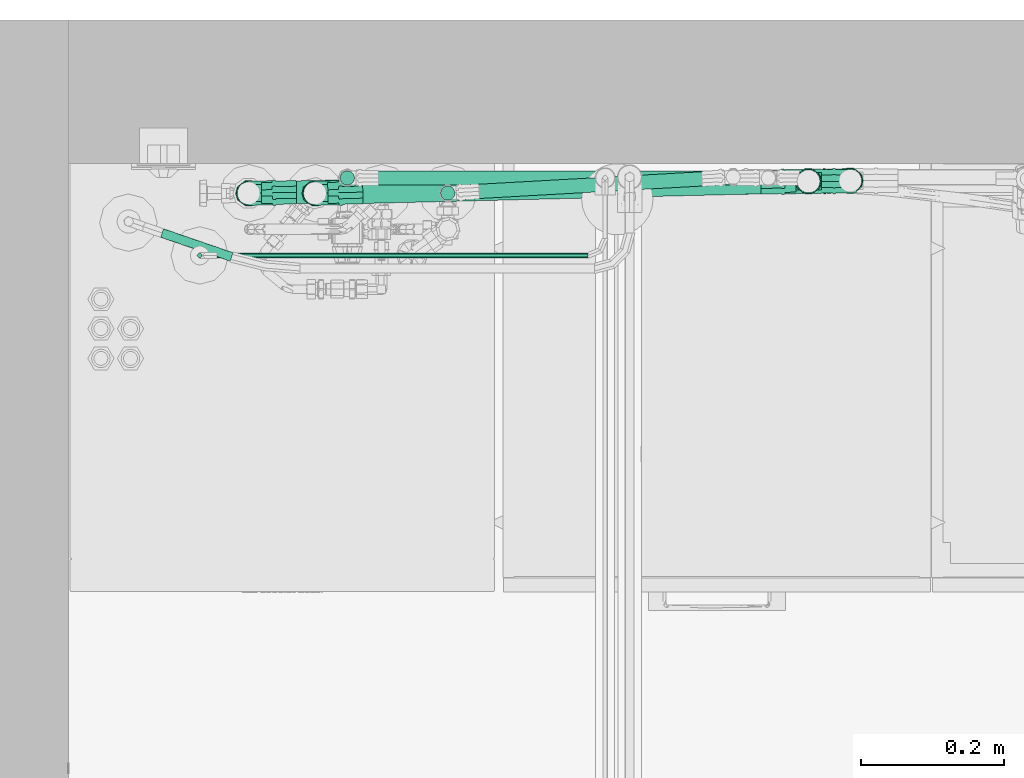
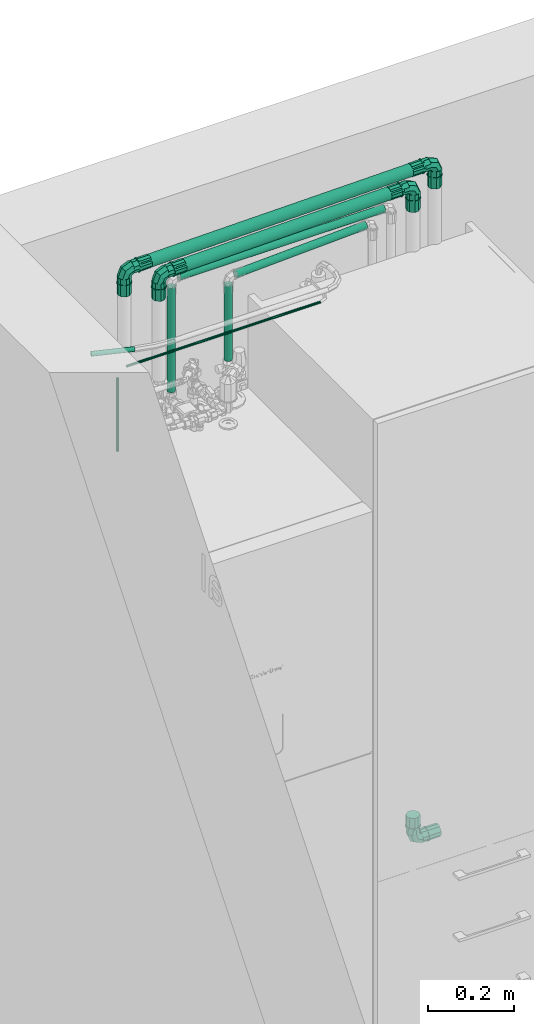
# One storey, part 19 of 30: 9 flow segments, 5 flow fittings.
"""IFC2X3 building model written with IfcOpenShell, lengths in metres."""

from ifc_helpers import new_model, entity, si_unit, converted_unit, derived_unit, direction, frame, frame_2d, origin, origin_2d_with_axis, place, context, subcontext, project, spatial, circle, extrude, faceted_brep, source, transform, mapped, material, material_list, type_object, type_shapes, element, save


model = new_model("IFC2X3")

# Units and contexts
model_context = context("Model", 3, precision=1e-05, world=origin(), true_north=direction((6.123031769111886e-17, 1.0)))
body_context = subcontext(model_context, "Body", "Model", "MODEL_VIEW")
ifc_project = project(units=[si_unit("LENGTHUNIT", "METRE"), si_unit("AREAUNIT", "SQUARE_METRE"), si_unit("VOLUMEUNIT", "CUBIC_METRE"), converted_unit("PLANEANGLEUNIT", "DEGREE", entity("IfcPlaneAngleMeasure", 0.017453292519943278), si_unit("PLANEANGLEUNIT", "RADIAN"), dimensions=[0, 0, 0, 0, 0, 0, 0]), si_unit("MASSUNIT", "GRAM", prefix="KILO"), derived_unit("MASSDENSITYUNIT", [(si_unit("MASSUNIT", "GRAM", prefix="KILO"), 1), (si_unit("LENGTHUNIT", "METRE"), -3)]), derived_unit("IONCONCENTRATIONUNIT", [(si_unit("MASSUNIT", "GRAM", prefix="KILO"), 1), (si_unit("LENGTHUNIT", "METRE"), -3)]), derived_unit("MOMENTOFINERTIAUNIT", [(si_unit("LENGTHUNIT", "METRE"), 4)]), si_unit("TIMEUNIT", "SECOND"), si_unit("FREQUENCYUNIT", "HERTZ"), si_unit("THERMODYNAMICTEMPERATUREUNIT", "DEGREE_CELSIUS"), derived_unit("THERMALTRANSMITTANCEUNIT", [(si_unit("MASSUNIT", "GRAM", prefix="KILO"), 1), (si_unit("THERMODYNAMICTEMPERATUREUNIT", "KELVIN"), -1), (si_unit("TIMEUNIT", "SECOND"), -3)]), derived_unit("THERMALCONDUCTANCEUNIT", [(si_unit("MASSUNIT", "GRAM", prefix="KILO"), 1), (si_unit("THERMODYNAMICTEMPERATUREUNIT", "KELVIN"), -1), (si_unit("TIMEUNIT", "SECOND"), -3), (si_unit("LENGTHUNIT", "METRE"), 1)]), derived_unit("VOLUMETRICFLOWRATEUNIT", [(si_unit("LENGTHUNIT", "METRE", prefix="DECI"), 3), (si_unit("TIMEUNIT", "SECOND"), -1)]), derived_unit("MASSFLOWRATEUNIT", [(si_unit("MASSUNIT", "GRAM", prefix="KILO"), 1), (si_unit("TIMEUNIT", "SECOND"), -1)]), derived_unit("ROTATIONALFREQUENCYUNIT", [(si_unit("TIMEUNIT", "SECOND"), -1)]), si_unit("ELECTRICCURRENTUNIT", "AMPERE"), si_unit("ELECTRICVOLTAGEUNIT", "VOLT"), si_unit("POWERUNIT", "WATT"), si_unit("FORCEUNIT", "NEWTON", prefix="KILO"), si_unit("ILLUMINANCEUNIT", "LUX"), si_unit("LUMINOUSFLUXUNIT", "LUMEN"), si_unit("LUMINOUSINTENSITYUNIT", "CANDELA"), si_unit("ENERGYUNIT", "JOULE"), derived_unit("USERDEFINED", [(si_unit("MASSUNIT", "GRAM", prefix="KILO"), -1), (si_unit("LENGTHUNIT", "METRE"), -2), (si_unit("TIMEUNIT", "SECOND"), 3), (si_unit("LUMINOUSFLUXUNIT", "LUMEN"), 1)]), derived_unit("USERDEFINED", [(si_unit("MASSUNIT", "GRAM", prefix="KILO"), 1), (si_unit("TIMEUNIT", "SECOND"), -3), (si_unit("LENGTHUNIT", "METRE"), 3), (si_unit("ELECTRICCURRENTUNIT", "AMPERE"), -2)]), derived_unit("SOUNDPOWERUNIT", [(si_unit("MASSUNIT", "GRAM", prefix="KILO"), 1), (si_unit("TIMEUNIT", "SECOND"), -3), (si_unit("LENGTHUNIT", "METRE"), 2)]), derived_unit("SOUNDPRESSUREUNIT", [(si_unit("MASSUNIT", "GRAM", prefix="KILO"), 1), (si_unit("LENGTHUNIT", "METRE"), -1), (si_unit("TIMEUNIT", "SECOND"), -2)]), derived_unit("LINEARVELOCITYUNIT", [(si_unit("LENGTHUNIT", "METRE"), 1), (si_unit("TIMEUNIT", "SECOND"), -1)]), si_unit("PRESSUREUNIT", "PASCAL"), derived_unit("USERDEFINED", [(si_unit("MASSUNIT", "GRAM", prefix="KILO"), 1), (si_unit("LENGTHUNIT", "METRE"), -2), (si_unit("TIMEUNIT", "SECOND"), -2)]), derived_unit("LINEARFORCEUNIT", [(si_unit("MASSUNIT", "GRAM", prefix="KILO"), 1), (si_unit("TIMEUNIT", "SECOND"), -2)]), derived_unit("PLANARFORCEUNIT", [(si_unit("MASSUNIT", "GRAM", prefix="KILO"), 1), (si_unit("LENGTHUNIT", "METRE"), -1), (si_unit("TIMEUNIT", "SECOND"), -2)]), derived_unit("SPECIFICHEATCAPACITYUNIT", [(si_unit("THERMODYNAMICTEMPERATUREUNIT", "KELVIN"), -1), (si_unit("LENGTHUNIT", "METRE"), 2), (si_unit("TIMEUNIT", "SECOND"), -2)]), derived_unit("HEATFLUXDENSITYUNIT", [(si_unit("MASSUNIT", "GRAM", prefix="KILO"), 1), (si_unit("TIMEUNIT", "SECOND"), -3)]), derived_unit("HEATINGVALUEUNIT", [(si_unit("LENGTHUNIT", "METRE"), 2), (si_unit("TIMEUNIT", "SECOND"), -2)]), derived_unit("VAPORPERMEABILITYUNIT", [(si_unit("LENGTHUNIT", "METRE"), -1), (si_unit("TIMEUNIT", "SECOND"), 1)]), derived_unit("DYNAMICVISCOSITYUNIT", [(si_unit("MASSUNIT", "GRAM", prefix="KILO"), 1), (si_unit("TIMEUNIT", "SECOND"), -1), (si_unit("LENGTHUNIT", "METRE"), -1)]), derived_unit("THERMALEXPANSIONCOEFFICIENTUNIT", [(si_unit("THERMODYNAMICTEMPERATUREUNIT", "KELVIN"), -1)]), derived_unit("MODULUSOFELASTICITYUNIT", [(si_unit("MASSUNIT", "GRAM", prefix="KILO"), 1), (si_unit("LENGTHUNIT", "METRE"), -1), (si_unit("TIMEUNIT", "SECOND"), -2)]), derived_unit("ISOTHERMALMOISTURECAPACITYUNIT", [(si_unit("MASSUNIT", "GRAM", prefix="KILO"), -1), (si_unit("LENGTHUNIT", "METRE"), 3)]), derived_unit("MOISTUREDIFFUSIVITYUNIT", [(si_unit("TIMEUNIT", "SECOND"), -1), (si_unit("LENGTHUNIT", "METRE"), 2)]), derived_unit("MASSPERLENGTHUNIT", [(si_unit("MASSUNIT", "GRAM", prefix="KILO"), 1), (si_unit("LENGTHUNIT", "METRE"), -1)]), derived_unit("THERMALRESISTANCEUNIT", [(si_unit("MASSUNIT", "GRAM", prefix="KILO"), -1), (si_unit("TIMEUNIT", "SECOND"), 3), (si_unit("THERMODYNAMICTEMPERATUREUNIT", "KELVIN"), 1)]), derived_unit("ACCELERATIONUNIT", [(si_unit("LENGTHUNIT", "METRE"), 1), (si_unit("TIMEUNIT", "SECOND"), -2)]), derived_unit("ANGULARVELOCITYUNIT", [(si_unit("TIMEUNIT", "SECOND"), -1), (si_unit("PLANEANGLEUNIT", "RADIAN"), 1)]), derived_unit("LINEARSTIFFNESSUNIT", [(si_unit("MASSUNIT", "GRAM", prefix="KILO"), 1), (si_unit("TIMEUNIT", "SECOND"), -2)]), derived_unit("WARPINGCONSTANTUNIT", [(si_unit("LENGTHUNIT", "METRE"), 6)]), derived_unit("LINEARMOMENTUNIT", [(si_unit("MASSUNIT", "GRAM", prefix="KILO"), 1), (si_unit("LENGTHUNIT", "METRE"), 1), (si_unit("TIMEUNIT", "SECOND"), -2)]), derived_unit("TORQUEUNIT", [(si_unit("MASSUNIT", "GRAM", prefix="KILO"), 1), (si_unit("LENGTHUNIT", "METRE"), 2), (si_unit("TIMEUNIT", "SECOND"), -2)])], contexts=[model_context])

# Site, building, storey
site_placement = place(None, origin())
site = spatial("IfcSite", under=ifc_project, at=site_placement, Name="Default", CompositionType="ELEMENT")
building_placement = place(site_placement, origin())
building = spatial("IfcBuilding", under=site, at=building_placement, CompositionType="ELEMENT")
storey_placement = place(building_placement, origin())
storey = spatial("IfcBuildingStorey", under=building, at=storey_placement, Name="Niveau 0", CompositionType="ELEMENT", Elevation=-1.949160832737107e-14)

# Flow segments
pipe_segment_type_1 = type_object("IfcPipeSegmentType", Name="Canalisation:Cuivre Frigo", PredefinedType="NOTDEFINED")
flow_segment_1_placement = place(storey_placement, origin())
element("IfcFlowSegment", 1, at=flow_segment_1_placement, inside=storey, type_object=pipe_segment_type_1, Name="Canalisation:Cuivre Frigo", ObjectType="Canalisation:Cuivre Frigo", context=body_context, shape_type="SweptSolid", body=[
    extrude(circle(Radius=0.0032, at=origin_2d_with_axis()), frame((-20.431289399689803, 2.7395264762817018, 1.9300000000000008)), (0.0, 0.0, 1.0), 0.20798855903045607),
])
flow_segment_2_placement = place(storey_placement, origin())
element("IfcFlowSegment", 2, at=flow_segment_2_placement, inside=storey, type_object=pipe_segment_type_1, Name="Canalisation:Cuivre Frigo", ObjectType="Canalisation:Cuivre Frigo", context=body_context, shape_type="SweptSolid", body=[
    extrude(circle(Radius=0.0032, at=frame_2d((0.0, 2.707167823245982e-16), x_axis=(1.0, 0.0))), frame((-20.407189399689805, 2.7395264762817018, 2.1620885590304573), z_axis=(1.0, 0.0, 0.0), x_axis=(0.0, -1.0, 0.0)), (0.0, 0.0, 1.0), 0.5199250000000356),
])
flow_segment_3_placement = place(storey_placement, origin())
element("IfcFlowSegment", 3, at=flow_segment_3_placement, inside=storey, type_object=pipe_segment_type_1, Name="Canalisation:Cuivre Frigo", ObjectType="Canalisation:Cuivre Frigo", context=body_context, shape_type="SweptSolid", body=[
    extrude(circle(Radius=0.00635, at=frame_2d((-5.119354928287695e-16, 0.0), x_axis=(1.0, 0.0))), frame((-20.48414539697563, 2.7710151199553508, 2.205137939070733), z_axis=(0.9455185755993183, -0.32556815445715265, 0.0), x_axis=(-0.32556815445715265, -0.9455185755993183, 0.0)), (0.0, 0.0, 1.0), 0.10301593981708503),
])
pipe_segment_type_2 = type_object("IfcPipeSegmentType", Name="Canalisation:COMAP MULTISKIN - SKINPRESS PPSU", PredefinedType="NOTDEFINED")
flow_segment_4_placement = place(storey_placement, origin())
element("IfcFlowSegment", 4, at=flow_segment_4_placement, inside=storey, type_object=pipe_segment_type_2, Name="Canalisation:COMAP MULTISKIN - SKINPRESS PPSU", ObjectType="Canalisation:COMAP MULTISKIN - SKINPRESS PPSU", context=body_context, shape_type="SweptSolid", body=[
    extrude(circle(Radius=0.01, at=origin_2d_with_axis()), frame((-20.08374886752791, 2.8269022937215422, 2.016508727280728), z_axis=(0.0, 0.0, 1.0), x_axis=(-1.0, 0.0, 0.0)), (0.0, 0.0, 1.0), 0.2135332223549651),
])
flow_segment_5_placement = place(storey_placement, origin())
element("IfcFlowSegment", 5, at=flow_segment_5_placement, inside=storey, type_object=pipe_segment_type_2, Name="Canalisation:COMAP MULTISKIN - SKINPRESS PPSU", ObjectType="Canalisation:COMAP MULTISKIN - SKINPRESS PPSU", context=body_context, shape_type="SweptSolid", body=[
    extrude(circle(Radius=0.01, at=origin_2d_with_axis()), frame((-20.0637801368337, 2.828020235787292, 2.2500419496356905), z_axis=(0.9984365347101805, 0.05589710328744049, 0.0), x_axis=(0.05589710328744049, -0.9984365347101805, 0.0)), (0.0, 0.0, 1.0), 0.3606263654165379),
])
flow_segment_6_placement = place(storey_placement, origin())
element("IfcFlowSegment", 6, at=flow_segment_6_placement, inside=storey, type_object=pipe_segment_type_2, Name="Canalisation:COMAP MULTISKIN - SKINPRESS PPSU", ObjectType="Canalisation:COMAP MULTISKIN - SKINPRESS PPSU", context=body_context, shape_type="SweptSolid", body=[
    extrude(circle(Radius=0.01, at=origin_2d_with_axis()), frame((-20.224537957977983, 2.8480800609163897, 1.9639101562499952), z_axis=(0.0, 0.0, 1.0), x_axis=(-1.0, 0.0, 0.0)), (0.0, 0.0, 1.0), 0.2965884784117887),
])
flow_segment_7_placement = place(storey_placement, origin())
element("IfcFlowSegment", 7, at=flow_segment_7_placement, inside=storey, type_object=pipe_segment_type_2, Name="Canalisation:COMAP MULTISKIN - SKINPRESS PPSU", ObjectType="Canalisation:COMAP MULTISKIN - SKINPRESS PPSU", context=body_context, shape_type="SweptSolid", body=[
    extrude(circle(Radius=0.01, at=origin_2d_with_axis()), frame((-20.204537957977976, 2.8480800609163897, 2.280498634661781), z_axis=(1.0, 0.0, 0.0), x_axis=(0.0, -1.0, 0.0)), (0.0, 0.0, 1.0), 0.5500000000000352),
])
flow_segment_8_placement = place(storey_placement, origin())
element("IfcFlowSegment", 8, at=flow_segment_8_placement, inside=storey, type_object=pipe_segment_type_2, Name="Canalisation:COMAP MULTISKIN - SKINPRESS PPSU", ObjectType="Canalisation:COMAP MULTISKIN - SKINPRESS PPSU", context=body_context, shape_type="SweptSolid", body=[
    extrude(circle(Radius=0.016, at=frame_2d((-1.261326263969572e-45, 2.707167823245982e-16), x_axis=(1.0, 0.0))), frame((-20.324756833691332, 2.827518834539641, 2.3683000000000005), z_axis=(0.9997825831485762, 0.02085153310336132, 0.0), x_axis=(0.02085153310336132, -0.9997825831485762, 0.0)), (0.0, 0.0, 1.0), 0.7671985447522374),
])
flow_segment_9_placement = place(storey_placement, origin())
element("IfcFlowSegment", 9, at=flow_segment_9_placement, inside=storey, type_object=pipe_segment_type_2, Name="Canalisation:COMAP MULTISKIN - SKINPRESS PPSU", ObjectType="Canalisation:COMAP MULTISKIN - SKINPRESS PPSU", context=body_context, shape_type="SweptSolid", body=[
    extrude(circle(Radius=0.016, at=frame_2d((1.333814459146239e-31, 1.3535839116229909e-15), x_axis=(1.0, 0.0))), frame((-20.23175970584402, 2.8276462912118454, 2.3233379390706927), z_axis=(0.999707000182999, 0.024205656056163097, 0.0), x_axis=(-0.024205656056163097, 0.999707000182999, 0.0)), (0.0, 0.0, 1.0), 0.6157146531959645),
])

# Flow fittings
ifc_material_1 = material(Name="Bague blanche VisuControl")
ifc_material_2 = material(Name="Inox")
ifc_material_3 = material(Name="PPSU")
ifc_material_list_1 = material_list([ifc_material_1, ifc_material_2, ifc_material_3])
ifc_material_list_2 = material_list([ifc_material_3, ifc_material_1, ifc_material_2])
pipe_fitting_type = type_object("IfcPipeFittingType", Name="COMAP - SKINPRESS ppsu - Coude_45_90_9041W_9090W:Coude_45_90_9041W_9090W", PredefinedType="NOTDEFINED", material=ifc_material_list_2)
shared_shape = source(origin(), body_context, "Body", "Brep", [
    faceted_brep([(-0.0184999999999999, 0.03400000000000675, 0.0), (-0.01602146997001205, 0.03400000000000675, -0.009249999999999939), (-0.004788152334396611, 0.03400000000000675, -0.017869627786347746), (0.004788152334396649, 0.03400000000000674, -0.017869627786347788), (0.016021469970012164, 0.03400000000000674, -0.009250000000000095), (0.018500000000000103, 0.03400000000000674, 0.0), (0.016021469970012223, 0.03400000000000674, 0.009249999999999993), (0.004788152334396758, 0.03400000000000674, 0.017869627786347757), (-0.0047881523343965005, 0.03400000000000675, 0.017869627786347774), (-0.01602146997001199, 0.03400000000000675, 0.009250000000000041), (0.004788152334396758, 0.038000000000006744, 0.017869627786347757), (0.016021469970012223, 0.038000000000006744, 0.009249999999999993), (0.018500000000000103, 0.038000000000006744, 0.0), (0.016021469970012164, 0.038000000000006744, -0.009250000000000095), (0.004788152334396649, 0.038000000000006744, -0.017869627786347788), (-0.004788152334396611, 0.038000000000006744, -0.017869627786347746), (-0.01602146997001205, 0.038000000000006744, -0.009249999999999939), (-0.0184999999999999, 0.038000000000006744, 0.0), (-0.01602146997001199, 0.038000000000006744, 0.009250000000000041), (-0.0047881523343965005, 0.038000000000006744, 0.017869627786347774)], [[[0, 1, 2, 3, 4, 5, 6, 7, 8, 9]], [[10, 11, 12, 13, 14, 15, 16, 17, 18, 19]], [[1, 0, 17, 16]], [[2, 1, 16, 15]], [[15, 14, 3, 2]], [[4, 3, 14, 13]], [[5, 4, 13, 12]], [[6, 5, 12, 11]], [[7, 6, 11, 10]], [[10, 19, 8, 7]], [[9, 8, 19, 18]], [[0, 9, 18, 17]]]),
    faceted_brep([(0.01472243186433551, 0.03300000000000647, -0.008500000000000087), (0.017000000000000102, 0.03300000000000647, 0.0), (0.014722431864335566, 0.03300000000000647, 0.008499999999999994), (0.004399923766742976, 0.03300000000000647, 0.016420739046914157), (-0.004399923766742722, 0.03300000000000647, 0.01642073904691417), (-0.014722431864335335, 0.03300000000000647, 0.008500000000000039), (-0.0169999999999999, 0.03300000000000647, 0.0), (-0.014722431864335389, 0.03300000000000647, -0.008499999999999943), (-0.004399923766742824, 0.03300000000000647, -0.016420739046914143), (0.004399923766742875, 0.03300000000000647, -0.016420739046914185), (0.004399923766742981, 0.06700000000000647, 0.016420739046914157), (0.01472243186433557, 0.06700000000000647, 0.008499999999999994), (0.01700000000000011, 0.06700000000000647, 0.0), (0.014722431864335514, 0.06700000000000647, -0.008500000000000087), (0.004399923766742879, 0.06700000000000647, -0.016420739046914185), (-0.0043999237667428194, 0.06700000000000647, -0.016420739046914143), (-0.014722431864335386, 0.06700000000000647, -0.008499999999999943), (-0.016999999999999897, 0.06700000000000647, 0.0), (-0.01472243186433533, 0.06700000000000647, 0.008500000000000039), (-0.004399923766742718, 0.06700000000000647, 0.01642073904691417)], [[[0, 1, 2, 3, 4, 5, 6, 7, 8, 9]], [[10, 11, 12, 13, 14, 15, 16, 17, 18, 19]], [[7, 6, 17, 16]], [[8, 7, 16, 15]], [[15, 14, 9, 8]], [[0, 9, 14, 13]], [[1, 0, 13, 12]], [[2, 1, 12, 11]], [[3, 2, 11, 10]], [[10, 19, 4, 3]], [[5, 4, 19, 18]], [[6, 5, 18, 17]]]),
    faceted_brep([(-0.03399999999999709, -0.018499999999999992, 0.0), (-0.03399999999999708, -0.016021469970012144, -0.009249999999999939), (-0.03399999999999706, -0.004788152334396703, -0.017869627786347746), (-0.033999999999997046, 0.004788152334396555, -0.017869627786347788), (-0.033999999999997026, 0.01602146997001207, -0.009250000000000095), (-0.03399999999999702, 0.01850000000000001, 0.0), (-0.033999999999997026, 0.01602146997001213, 0.009249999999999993), (-0.033999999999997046, 0.004788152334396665, 0.017869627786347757), (-0.03399999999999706, -0.004788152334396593, 0.017869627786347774), (-0.03399999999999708, -0.016021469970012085, 0.009250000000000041), (-0.03799999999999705, 0.004788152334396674, 0.017869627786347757), (-0.03799999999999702, 0.016021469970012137, 0.009249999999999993), (-0.03799999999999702, 0.018500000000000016, 0.0), (-0.03799999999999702, 0.016021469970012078, -0.009250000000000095), (-0.03799999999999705, 0.004788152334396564, -0.017869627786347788), (-0.037999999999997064, -0.004788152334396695, -0.017869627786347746), (-0.03799999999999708, -0.016021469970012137, -0.009249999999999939), (-0.03799999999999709, -0.018499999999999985, 0.0), (-0.03799999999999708, -0.016021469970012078, 0.009250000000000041), (-0.037999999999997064, -0.004788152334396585, 0.017869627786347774)], [[[0, 1, 2, 3, 4, 5, 6, 7, 8, 9]], [[10, 11, 12, 13, 14, 15, 16, 17, 18, 19]], [[1, 0, 17, 16]], [[2, 1, 16, 15]], [[15, 14, 3, 2]], [[4, 3, 14, 13]], [[5, 4, 13, 12]], [[6, 5, 12, 11]], [[7, 6, 11, 10]], [[10, 19, 8, 7]], [[9, 8, 19, 18]], [[0, 9, 18, 17]]]),
    faceted_brep([(-0.03299999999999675, 0.014722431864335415, -0.008500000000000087), (-0.03299999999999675, 0.017000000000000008, 0.0), (-0.03299999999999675, 0.01472243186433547, 0.008499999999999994), (-0.03299999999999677, 0.004399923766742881, 0.016420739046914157), (-0.03299999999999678, -0.004399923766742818, 0.01642073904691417), (-0.0329999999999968, -0.01472243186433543, 0.008500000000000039), (-0.0329999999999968, -0.016999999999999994, 0.0), (-0.0329999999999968, -0.014722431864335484, -0.008499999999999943), (-0.03299999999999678, -0.004399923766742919, -0.016420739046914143), (-0.03299999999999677, 0.0043999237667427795, -0.016420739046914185), (-0.06699999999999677, 0.004399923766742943, 0.016420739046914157), (-0.06699999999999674, 0.014722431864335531, 0.008499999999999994), (-0.06699999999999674, 0.01700000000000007, 0.0), (-0.06699999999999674, 0.014722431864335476, -0.008500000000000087), (-0.06699999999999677, 0.004399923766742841, -0.016420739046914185), (-0.06699999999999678, -0.004399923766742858, -0.016420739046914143), (-0.06699999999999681, -0.014722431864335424, -0.008499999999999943), (-0.06699999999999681, -0.016999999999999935, 0.0), (-0.06699999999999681, -0.014722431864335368, 0.008500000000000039), (-0.06699999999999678, -0.004399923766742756, 0.01642073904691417)], [[[0, 1, 2, 3, 4, 5, 6, 7, 8, 9]], [[10, 11, 12, 13, 14, 15, 16, 17, 18, 19]], [[7, 6, 17, 16]], [[8, 7, 16, 15]], [[15, 14, 9, 8]], [[0, 9, 14, 13]], [[1, 0, 13, 12]], [[2, 1, 12, 11]], [[3, 2, 11, 10]], [[10, 19, 4, 3]], [[5, 4, 19, 18]], [[6, 5, 18, 17]]]),
    faceted_brep([(-0.03299999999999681, -0.014722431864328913, -0.008500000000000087), (-0.03299999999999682, -0.016999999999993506, 0.0), (-0.03299999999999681, -0.014722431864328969, 0.008499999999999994), (-0.032999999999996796, -0.00439992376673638, 0.016420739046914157), (-0.03299999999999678, 0.0043999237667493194, 0.01642073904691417), (-0.03299999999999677, 0.01472243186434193, 0.008500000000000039), (-0.03299999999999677, 0.017000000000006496, 0.0), (-0.03299999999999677, 0.014722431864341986, -0.008499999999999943), (-0.03299999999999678, 0.004399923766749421, -0.016420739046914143), (-0.032999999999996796, -0.004399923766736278, -0.016420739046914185), (-0.0179999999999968, -0.004399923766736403, 0.016420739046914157), (-0.017999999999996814, -0.014722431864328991, 0.008499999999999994), (-0.017999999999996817, -0.01699999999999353, 0.0), (-0.017999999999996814, -0.014722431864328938, -0.008500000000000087), (-0.0179999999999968, -0.004399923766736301, -0.016420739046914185), (-0.017999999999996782, 0.0043999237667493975, -0.016420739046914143), (-0.01799999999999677, 0.014722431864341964, -0.008499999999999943), (-0.017999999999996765, 0.017000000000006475, 0.0), (-0.01799999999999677, 0.014722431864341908, 0.008500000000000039), (-0.017999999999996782, 0.004399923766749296, 0.01642073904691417)], [[[0, 1, 2, 3, 4, 5, 6, 7, 8, 9]], [[10, 11, 12, 13, 14, 15, 16, 17, 18, 19]], [[7, 6, 17, 16]], [[8, 7, 16, 15]], [[15, 14, 9, 8]], [[0, 9, 14, 13]], [[1, 0, 13, 12]], [[2, 1, 12, 11]], [[3, 2, 11, 10]], [[10, 19, 4, 3]], [[5, 4, 19, 18]], [[6, 5, 18, 17]]]),
    faceted_brep([(-0.00849999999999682, 0.033000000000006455, 0.014722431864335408), (0.0, 0.03300000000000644, 0.017), (0.008500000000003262, 0.03300000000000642, 0.014722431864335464), (0.016420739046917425, 0.03300000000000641, 0.004399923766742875), (0.01642073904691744, 0.03300000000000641, -0.004399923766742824), (0.008500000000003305, 0.03300000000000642, -0.014722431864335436), (0.0, 0.03300000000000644, -0.017), (-0.008499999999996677, 0.033000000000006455, -0.014722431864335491), (-0.016420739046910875, 0.03300000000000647, -0.004399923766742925), (-0.016420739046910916, 0.03300000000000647, 0.0043999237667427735), (0.016420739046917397, 0.01800000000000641, 0.004399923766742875), (0.008500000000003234, 0.018000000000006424, 0.014722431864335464), (0.0, 0.018000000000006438, 0.017), (-0.008499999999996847, 0.018000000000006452, 0.014722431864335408), (-0.016420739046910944, 0.01800000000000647, 0.0043999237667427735), (-0.016420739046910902, 0.01800000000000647, -0.004399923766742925), (-0.008499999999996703, 0.018000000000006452, -0.014722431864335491), (0.0, 0.018000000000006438, -0.017), (0.00850000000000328, 0.018000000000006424, -0.014722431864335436), (0.01642073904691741, 0.01800000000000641, -0.004399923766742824)], [[[0, 1, 2, 3, 4, 5, 6, 7, 8, 9]], [[10, 11, 12, 13, 14, 15, 16, 17, 18, 19]], [[7, 6, 17, 16]], [[8, 7, 16, 15]], [[15, 14, 9, 8]], [[0, 9, 14, 13]], [[1, 0, 13, 12]], [[2, 1, 12, 11]], [[3, 2, 11, 10]], [[10, 19, 4, 3]], [[5, 4, 19, 18]], [[6, 5, 18, 17]]]),
    faceted_brep([(0.0067487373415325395, -0.0067487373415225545, 0.0), (0.003227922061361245, -0.0032279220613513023, -0.012020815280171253), (0.012020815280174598, 0.018000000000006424, -0.012020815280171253), (0.017000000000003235, 0.018000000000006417, 0.0), (-0.005272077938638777, 0.00527207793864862, -0.017), (0.0, 0.018000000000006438, -0.017), (-0.013772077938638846, 0.013772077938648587, -0.012020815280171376), (-0.012020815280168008, 0.018000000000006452, -0.012020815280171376), (-0.017292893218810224, 0.01729289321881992, 0.0), (-0.016999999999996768, 0.01800000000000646, 0.0), (-0.013772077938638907, 0.013772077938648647, 0.012020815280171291), (-0.012020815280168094, 0.018000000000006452, 0.012020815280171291), (-0.005272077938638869, 0.00527207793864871, 0.017), (0.0, 0.018000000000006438, 0.017), (0.0032279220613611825, -0.00322792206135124, 0.012020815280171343), (0.01202081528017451, 0.018000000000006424, 0.012020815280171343), (-0.01799999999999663, -0.01699999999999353, 0.0), (-0.01799999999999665, -0.012020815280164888, -0.012020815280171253), (-0.017999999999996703, 0.0, -0.017), (-0.01799999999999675, 0.012020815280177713, -0.012020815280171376), (-0.017999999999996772, 0.017000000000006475, 0.0), (-0.01799999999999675, 0.0120208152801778, 0.012020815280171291), (-0.017999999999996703, 0.0, 0.017), (-0.01799999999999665, -0.012020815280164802, 0.012020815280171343)], [[[0, 1, 2, 3]], [[1, 4, 5, 2]], [[4, 6, 7, 5]], [[6, 8, 9, 7]], [[8, 10, 11, 9]], [[10, 12, 13, 11]], [[12, 14, 15, 13]], [[14, 0, 3, 15]], [[16, 17, 1, 0]], [[17, 18, 4, 1]], [[18, 19, 6, 4]], [[19, 20, 8, 6]], [[20, 21, 10, 8]], [[21, 22, 12, 10]], [[22, 23, 14, 12]], [[23, 16, 0, 14]], [[3, 2, 5, 7, 9, 11, 13, 15]], [[23, 22, 21, 20, 19, 18, 17, 16]]]),
])
type_shapes(pipe_fitting_type, [shared_shape])
for number, where, z_axis, x_axis in (
    (10, (-20.362748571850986, 2.8267264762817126, 2.3683000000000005), (-0.020851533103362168, 0.999782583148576, 0.0), (0.0, 0.0, 1.0)),
    (11, (-19.51973335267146, 2.8443084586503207, 2.368299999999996), (0.02085153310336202, -0.999782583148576, 0.0), (0.0, 0.0, 1.0)),
    (12, (-19.57823659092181, 2.843469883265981, 0.47056252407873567), (-0.0011535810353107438, 0.9999993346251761, 0.0), (-0.9999993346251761, -0.0011535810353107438, 0.0)),
    (13, (-19.578236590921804, 2.843469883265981, 2.323337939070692), (0.0242056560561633, -0.999707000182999, 0.0), (0.0, 0.0, 1.0)),
    (14, (-20.26974857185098, 2.8267264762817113, 2.3233379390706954), (-0.02420565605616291, 0.999707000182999, 0.0), (0.0, 0.0, 1.0)),
):
    element("IfcFlowFitting", number, at=place(storey_placement, frame(where, z_axis=z_axis, x_axis=x_axis)), inside=storey, type_object=pipe_fitting_type, material=ifc_material_list_1, Name="COMAP - SKINPRESS ppsu - Coude_45_90_9041W_9090W:Coude_45_90_9041W_9090W", ObjectType="COMAP - SKINPRESS ppsu - Coude_45_90_9041W_9090W:Coude_45_90_9041W_9090W", context=body_context, shape_type="MappedRepresentation", body=[
        mapped(shared_shape, transform((0.0, 0.0, 0.0), scale=1.0)),
    ])

save(model, "model.ifc")
